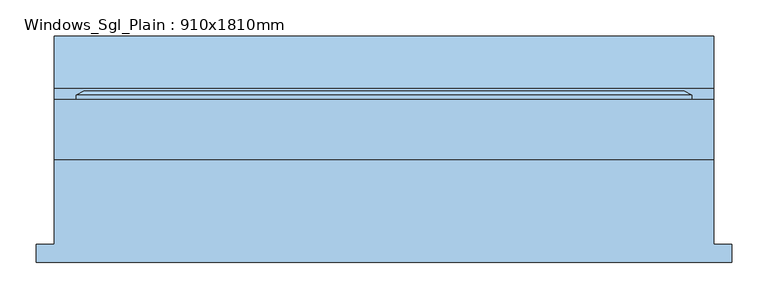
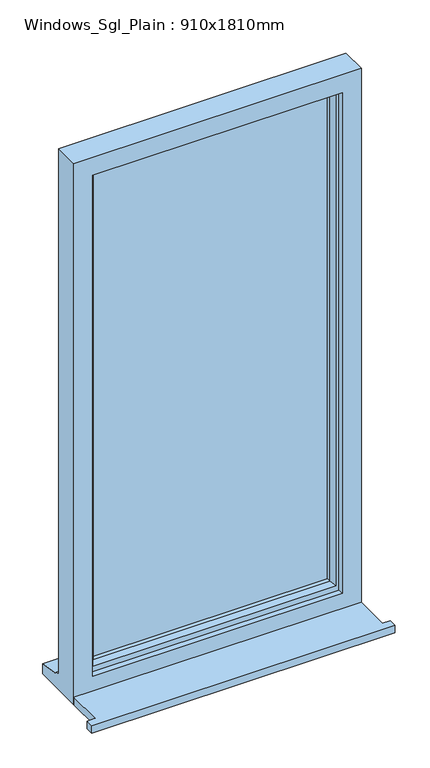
"""IFC4 building model written with IfcOpenShell, lengths in millimetres: window geometry, Windows_Sgl_Plain : 910x1810mm."""

from ifc_helpers import new_model, si_unit, frame, origin, place, context, project, spatial, polyline, outline, extrude, faceted_brep, source, transform, mapped, element, save


def windows_sgl_plain_910x1810mm_eaa5caaf(model_context):
    return source(origin(), model_context, "Body", "SolidModel", [
        extrude(outline(polyline([(-480.0, -141.5434322), (-480.0, -116.5434322), (-455.0, -116.5434322), (-455.0, 0.4565678), (455.0, 0.4565678), (455.0, -116.5434322), (480.0, -116.5434322), (480.0, -141.5434322), (-480.0, -141.5434322)])), frame((0.0, 0.0, 300.0), z_axis=(0.0, 0.0, 1.0), x_axis=(1.0, 0.0, 0.0)), (0.0, 0.0, 1.0), 25.0),
        faceted_brep([(-455.0, 0.4565678, 300.0), (455.0, 0.4565678, 300.0), (455.0, 0.4565678, 2110.0), (-455.0, 0.4565678, 2110.0), (-395.0, 0.4565678, 2050.0), (395.0, 0.4565678, 2050.0), (395.0, 0.4565678, 375.0), (-395.0, 0.4565678, 375.0), (-455.0, 83.4565678, 2110.0), (-455.0, 83.4565678, 351.0), (-455.0, 98.4565678, 349.68767), (-455.0, 98.4565678, 344.7449676), (-455.0, 170.9565678, 333.8088847), (-455.0, 170.9565678, 300.0), (455.0, 83.4565678, 2110.0), (455.0, 83.4565678, 351.0), (-415.0, 83.4565678, 2070.0), (-415.0, 83.4565678, 363.0), (415.0, 83.4565678, 363.0), (415.0, 83.4565678, 2070.0), (-415.0, 18.4565678, 2070.0), (-415.0, 18.4565678, 363.0), (415.0, 18.4565678, 2070.0), (415.0, 18.4565678, 363.0), (-395.0, 18.4565678, 2050.0), (-395.0, 18.4565678, 375.0), (395.0, 18.4565678, 375.0), (395.0, 18.4565678, 2050.0), (455.0, 170.9565678, 300.0), (455.0, 170.9565678, 333.8088847), (455.0, 98.4565678, 344.7449676), (455.0, 98.4565678, 349.68767)], [[[0, 1, 2, 3], [4, 5, 6, 7]], [[0, 3, 8, 9, 10, 11, 12, 13]], [[9, 8, 14, 15], [16, 17, 18, 19]], [[17, 16, 20, 21]], [[20, 22, 23, 21], [24, 25, 26, 27]], [[24, 4, 7, 25]], [[3, 2, 14, 8]], [[16, 19, 22, 20]], [[5, 4, 24, 27]], [[15, 14, 2, 1, 28, 29, 30, 31]], [[19, 18, 23, 22]], [[5, 27, 26, 6]], [[28, 1, 0, 13]], [[29, 28, 13, 12]], [[30, 29, 12, 11]], [[31, 30, 11, 10]], [[15, 31, 10, 9]], [[21, 23, 18, 17]], [[7, 6, 26, 25]]]),
        extrude(outline(polyline([(385.0, 47.4565678), (-385.0, 47.4565678), (-385.0, 71.4565678), (385.0, 71.4565678), (385.0, 47.4565678)])), frame((0.0, 0.0, 393.0), z_axis=(0.0, 0.0, 1.0), x_axis=(1.0, 0.0, 0.0)), (0.0, 0.0, 1.0), 1647.0),
        faceted_brep([(-425.0, 83.4565678, 2080.0), (-425.0, 89.2300705, 2080.0), (-425.0, 89.2300705, 353.0), (-425.0, 83.4565678, 353.0), (-415.0, 18.4565678, 2070.0), (-415.0, 83.4565678, 2070.0), (-415.0, 83.4565678, 363.0), (-415.0, 18.4565678, 363.0), (-375.0, 32.9494677, 2030.0), (-385.1480377, 18.4565678, 2040.1480377), (-385.1480377, 18.4565678, 392.8519623), (-375.0, 32.9494677, 403.0), (-375.0, 47.4565678, 2030.0), (-375.0, 47.4565678, 403.0), (-385.0, 71.4565678, 2040.0), (-385.0, 47.4565678, 2040.0), (-385.0, 47.4565678, 393.0), (-385.0, 71.4565678, 393.0), (-375.0, 89.2300705, 2030.0), (-375.0, 71.4565678, 2030.0), (-375.0, 71.4565678, 403.0), (-375.0, 89.2300705, 403.0), (-392.4457548, 95.0035732, 2047.4457548), (-392.4457548, 95.0035732, 385.5542452), (-414.2153903, 95.0035732, 2069.2153903), (-414.2153903, 95.0035732, 363.7846097), (425.0, 89.2300705, 353.0), (425.0, 83.4565678, 353.0), (415.0, 83.4565678, 363.0), (415.0, 18.4565678, 363.0), (385.1480377, 18.4565678, 392.8519623), (375.0, 32.9494677, 403.0), (375.0, 47.4565678, 403.0), (385.0, 47.4565678, 393.0), (385.0, 71.4565678, 393.0), (375.0, 71.4565678, 403.0), (375.0, 89.2300705, 403.0), (392.4457548, 95.0035732, 385.5542452), (414.2153903, 95.0035732, 363.7846097), (425.0, 89.2300705, 2080.0), (425.0, 83.4565678, 2080.0), (415.0, 83.4565678, 2070.0), (415.0, 18.4565678, 2070.0), (385.1480377, 18.4565678, 2040.1480377), (375.0, 32.9494677, 2030.0), (375.0, 47.4565678, 2030.0), (385.0, 47.4565678, 2040.0), (385.0, 71.4565678, 2040.0), (375.0, 71.4565678, 2030.0), (375.0, 89.2300705, 2030.0), (392.4457548, 95.0035732, 2047.4457548), (414.2153903, 95.0035732, 2069.2153903)], [[[0, 1, 2, 3]], [[4, 5, 6, 7]], [[8, 9, 10, 11]], [[12, 8, 11, 13]], [[14, 15, 16, 17]], [[18, 19, 20, 21]], [[22, 18, 21, 23]], [[1, 24, 25, 2]], [[3, 2, 26, 27]], [[7, 6, 28, 29]], [[11, 10, 30, 31]], [[13, 11, 31, 32]], [[17, 16, 33, 34]], [[21, 20, 35, 36]], [[23, 21, 36, 37]], [[2, 25, 38, 26]], [[27, 26, 39, 40]], [[29, 28, 41, 42]], [[31, 30, 43, 44]], [[32, 31, 44, 45]], [[34, 33, 46, 47]], [[36, 35, 48, 49]], [[37, 36, 49, 50]], [[26, 38, 51, 39]], [[40, 39, 1, 0]], [[3, 27, 40, 0], [5, 41, 28, 6]], [[42, 41, 5, 4]], [[7, 29, 42, 4], [9, 43, 30, 10]], [[44, 43, 9, 8]], [[45, 44, 8, 12]], [[15, 46, 33, 16], [13, 32, 45, 12]], [[47, 46, 15, 14]], [[17, 34, 47, 14], [19, 48, 35, 20]], [[49, 48, 19, 18]], [[50, 49, 18, 22]], [[24, 51, 38, 25], [23, 37, 50, 22]], [[39, 51, 24, 1]]]),
    ])


if __name__ == "__main__":
    model = new_model("IFC4")
    model_context = context("Model", 3, world=origin())
    ifc_project = project(units=[si_unit("LENGTHUNIT", "METRE", prefix="MILLI")], contexts=[model_context])
    site = spatial("IfcSite", under=ifc_project)
    building = spatial("IfcBuilding", under=site)
    placement = place(None, origin())
    windows_sgl_plain_910x1810mm_shape = windows_sgl_plain_910x1810mm_eaa5caaf(model_context)
    element("IfcWindow", 1, ObjectType="Windows_Sgl_Plain : 910x1810mm", at=placement, inside=building, context=model_context, shape_type="MappedRepresentation", body=[
        mapped(windows_sgl_plain_910x1810mm_shape, transform((0.0, 0.0, 0.0), x_axis=(1.0, 0.0, 0.0), y_axis=(0.0, 1.0, 0.0), z_axis=(0.0, 0.0, 1.0))),
    ])
    save(model, "model.ifc")
